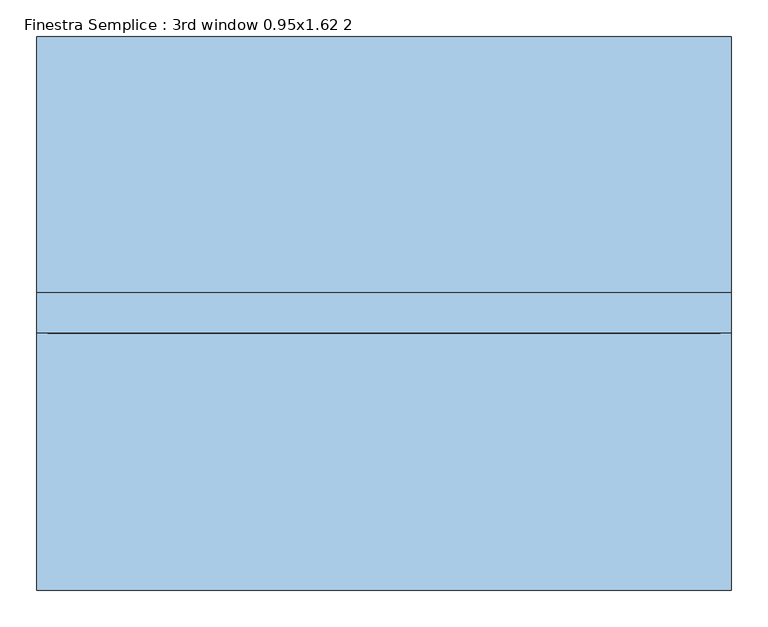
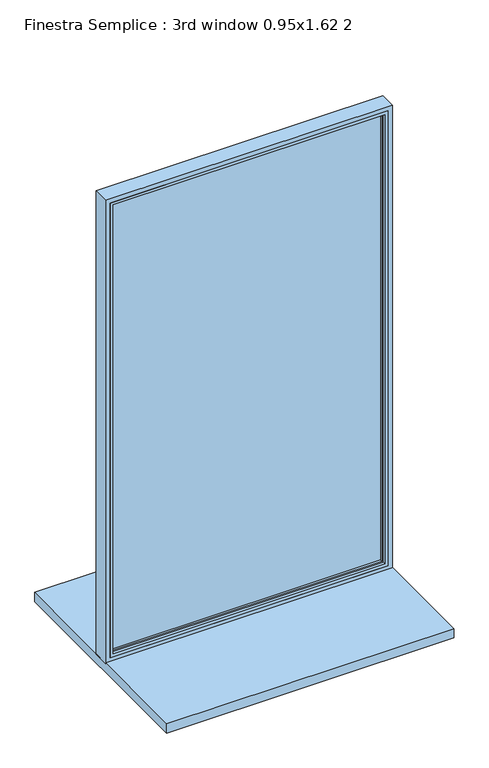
"""IFC4 building model written with IfcOpenShell, lengths in millimetres: window geometry, Finestra Semplice : 3rd window 0.95x1.62 2."""

from ifc_helpers import new_model, si_unit, frame, origin, place, context, project, spatial, polyline, ellipse_curve, outline, extrude, faceted_brep, source, transform, mapped, element, save
from ifc_brep_helpers import plane_surface, cylinder_surface, advanced_brep


def finestra_semplice_3rd_window_0_95x1_62_2_eac4eb58(model_context):
    return source(origin(), model_context, "Body", "SolidModel", [
        extrude(outline(polyline([(445.0, -3.0), (-445.0, -3.0), (-445.0, 9.8627388), (445.0, 9.8627388), (445.0, -3.0)])), frame((0.0, 0.0, 830.0), z_axis=(0.0, 0.0, 1.0), x_axis=(1.0, 0.0, 0.0)), (0.0, 0.0, 1.0), 1560.0),
        faceted_brep([(-460.0, -20.0, 2405.0), (-460.0, 20.0, 2405.0), (-460.0, 20.0, 815.0), (-460.0, -20.0, 815.0), (460.0, 20.0, 2405.0), (460.0, 20.0, 815.0), (-445.0, 20.0, 2390.0), (-445.0, 20.0, 830.0), (445.0, 20.0, 830.0), (445.0, 20.0, 2390.0), (460.0, -20.0, 815.0), (460.0, -20.0, 2405.0), (450.0, -20.0, 2395.0), (450.0, -20.0, 825.0), (-450.0, -20.0, 825.0), (-450.0, -20.0, 2395.0), (-450.0, -10.0, 2395.0), (-450.0, -10.0, 825.0), (450.0, -10.0, 825.0), (450.0, -10.0, 2395.0), (445.0, -10.0, 2390.0), (445.0, -10.0, 830.0), (-445.0, -10.0, 830.0), (-445.0, -10.0, 2390.0)], [[[0, 1, 2, 3]], [[4, 5, 2, 1], [6, 7, 8, 9]], [[3, 2, 5, 10]], [[0, 3, 10, 11], [12, 13, 14, 15]], [[16, 15, 14, 17]], [[17, 14, 13, 18]], [[16, 17, 18, 19], [20, 21, 22, 23]], [[6, 23, 22, 7]], [[7, 22, 21, 8]], [[10, 5, 4, 11]], [[18, 13, 12, 19]], [[8, 21, 20, 9]], [[11, 4, 1, 0]], [[19, 12, 15, 16]], [[9, 20, 23, 6]]]),
        advanced_brep(
        [(-475.0, 35.0, 2420.0), (-475.0, 35.0, 800.0), (-475.0, -20.0, 800.0), (-475.0, -20.0, 2420.0), (475.0, 35.0, 2420.0), (475.0, 35.0, 800.0), (-455.0, 35.0, 820.0), (455.0, 35.0, 820.0), (455.0, 35.0, 2400.0), (-455.0, 35.0, 2400.0), (475.0, -20.0, 800.0), (475.0, -20.0, 2420.0), (-460.0, -20.0, 2405.0), (460.0, -20.0, 2405.0), (460.0, -20.0, 815.0), (-460.0, -20.0, 815.0), (-460.0, 20.0, 2405.0), (-460.0, 20.0, 815.0), (460.0, 20.0, 815.0), (460.0, 20.0, 2405.0), (-450.0, 20.0, 2395.0), (450.0, 20.0, 2395.0), (450.0, 20.0, 825.0), (-450.0, 20.0, 825.0), (-450.0, 30.0, 2395.0), (-450.0, 30.0, 825.0), (450.0, 30.0, 825.0), (450.0, 30.0, 2395.0)],
        [
            (0, 1),
            (1, 2),
            (2, 3),
            (3, 0),
            (0, 4),
            (4, 5),
            (5, 1),
            (6, 7),
            (7, 8),
            (8, 9),
            (9, 6),
            (5, 10),
            (10, 2),
            (10, 11),
            (11, 3),
            (12, 13),
            (13, 14),
            (14, 15),
            (15, 12),
            (16, 12),
            (15, 17),
            (17, 16),
            (14, 18),
            (18, 17),
            (18, 19),
            (19, 16),
            (20, 21),
            (21, 22),
            (22, 23),
            (23, 20),
            (24, 20),
            (23, 25),
            (25, 24),
            (22, 26),
            (26, 25),
            (9, 24, ellipse_curve(frame((-455.0, 30.0, 2400.0), z_axis=(-0.7071067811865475, 0.0, -0.7071067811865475), x_axis=(-0.7071067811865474, 0.0, 0.7071067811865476)), 7.0710678, 5.0)),
            (25, 6, ellipse_curve(frame((-455.0, 30.0, 820.0), z_axis=(-0.7071067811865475, 0.0, 0.7071067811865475), x_axis=(0.7071067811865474, 0.0, 0.7071067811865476)), 7.0710678, 5.0)),
            (26, 7, ellipse_curve(frame((455.0, 30.0, 820.0), z_axis=(-0.7071067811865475, 0.0, -0.7071067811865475), x_axis=(-0.7071067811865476, 0.0, 0.7071067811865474)), 7.0710678, 5.0)),
            (4, 11),
            (13, 19),
            (21, 27),
            (27, 26),
            (27, 8, ellipse_curve(frame((455.0, 30.0, 2400.0), z_axis=(0.7071067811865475, 0.0, -0.7071067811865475), x_axis=(-0.7071067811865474, 0.0, -0.7071067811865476)), 7.0710678, 5.0)),
            (24, 27),
        ],
        [
            plane_surface(frame((-475.0, 0.0, 2420.0), z_axis=(-1.0, 0.0, 0.0), x_axis=(0.0, 0.0, -1.0))),
            plane_surface(frame((455.0, 35.0, 2400.0), z_axis=(0.0, 1.0, 0.0), x_axis=(-1.0, 0.0, 0.0))),
            plane_surface(frame((-475.0, 0.0, 800.0), z_axis=(0.0, 0.0, -1.0), x_axis=(1.0, 0.0, 0.0))),
            plane_surface(frame((475.0, -20.0, 2420.0), z_axis=(0.0, -1.0, 0.0), x_axis=(-1.0, 0.0, 0.0))),
            plane_surface(frame((-460.0, -20.0, 2405.0), z_axis=(1.0, 0.0, 0.0), x_axis=(0.0, 0.0, -1.0))),
            plane_surface(frame((-460.0, -20.0, 815.0), z_axis=(0.0, 0.0, 1.0), x_axis=(1.0, 0.0, 0.0))),
            plane_surface(frame((460.0, 20.0, 2405.0), z_axis=(0.0, -1.0, 0.0), x_axis=(-1.0, 0.0, 0.0))),
            plane_surface(frame((-450.0, 20.0, 2395.0), z_axis=(1.0, 0.0, 0.0), x_axis=(0.0, 0.0, -1.0))),
            plane_surface(frame((-450.0, 20.0, 825.0), z_axis=(0.0, 0.0, 1.0), x_axis=(1.0, 0.0, 0.0))),
            cylinder_surface(frame((-455.0, 30.0, 2420.0), z_axis=(0.0, 0.0, 1.0), x_axis=(1.0, 0.0, 0.0)), 5.0),
            cylinder_surface(frame((-475.0, 30.0, 820.0), z_axis=(-1.0, 0.0, 0.0), x_axis=(0.0, 0.0, 1.0)), 5.0),
            plane_surface(frame((475.0, 0.0, 800.0), z_axis=(1.0, 0.0, 0.0), x_axis=(0.0, 0.0, 1.0))),
            plane_surface(frame((460.0, -20.0, 815.0), z_axis=(-1.0, 0.0, 0.0), x_axis=(0.0, 0.0, 1.0))),
            plane_surface(frame((450.0, 20.0, 825.0), z_axis=(-1.0, 0.0, 0.0), x_axis=(0.0, 0.0, 1.0))),
            cylinder_surface(frame((455.0, 30.0, 800.0), z_axis=(0.0, 0.0, -1.0), x_axis=(-1.0, 0.0, 0.0)), 5.0),
            plane_surface(frame((475.0, 0.0, 2420.0), z_axis=(0.0, 0.0, 1.0), x_axis=(-1.0, 0.0, 0.0))),
            plane_surface(frame((460.0, -20.0, 2405.0), z_axis=(0.0, 0.0, -1.0), x_axis=(-1.0, 0.0, 0.0))),
            plane_surface(frame((450.0, 20.0, 2395.0), z_axis=(0.0, 0.0, -1.0), x_axis=(-1.0, 0.0, 0.0))),
            cylinder_surface(frame((475.0, 30.0, 2400.0), z_axis=(1.0, 0.0, 0.0), x_axis=(0.0, 0.0, -1.0)), 5.0),
        ],
        [
            (0, [[1, 2, 3, 4]]),
            (1, [[5, 6, 7, -1], [8, 9, 10, 11]]),
            (2, [[-2, -7, 12, 13]]),
            (3, [[-13, 14, 15, -3], [16, 17, 18, 19]]),
            (4, [[20, -19, 21, 22]]),
            (5, [[-21, -18, 23, 24]]),
            (6, [[-24, 25, 26, -22], [27, 28, 29, 30]]),
            (7, [[31, -30, 32, 33]]),
            (8, [[-32, -29, 34, 35]]),
            (9, [[36, -33, 37, -11]]),
            (10, [[-37, -35, 38, -8]]),
            (11, [[-12, -6, 39, -14]]),
            (12, [[-23, -17, 40, -25]]),
            (13, [[-34, -28, 41, 42]]),
            (14, [[-38, -42, 43, -9]]),
            (15, [[-39, -5, -4, -15]]),
            (16, [[-40, -16, -20, -26]]),
            (17, [[-41, -27, -31, 44]]),
            (18, [[-43, -44, -36, -10]]),
        ],
    ),
        extrude(outline(polyline([(475.0, -371.4372612), (-475.0, -371.4372612), (-475.0, 385.1627389), (475.0, 385.1627389), (475.0, -371.4372612)])), frame((0.0, 0.0, 770.0), z_axis=(0.0, 0.0, 1.0), x_axis=(1.0, 0.0, 0.0)), (0.0, 0.0, 1.0), 33.0),
    ])


if __name__ == "__main__":
    model = new_model("IFC4")
    model_context = context("Model", 3, world=origin())
    ifc_project = project(units=[si_unit("LENGTHUNIT", "METRE", prefix="MILLI")], contexts=[model_context])
    site = spatial("IfcSite", under=ifc_project)
    building = spatial("IfcBuilding", under=site)
    placement = place(None, origin())
    finestra_semplice_3rd_window_0_95x1_62_2_shape = finestra_semplice_3rd_window_0_95x1_62_2_eac4eb58(model_context)
    element("IfcWindow", 1, ObjectType="Finestra Semplice : 3rd window 0.95x1.62 2", at=placement, inside=building, context=model_context, shape_type="MappedRepresentation", body=[
        mapped(finestra_semplice_3rd_window_0_95x1_62_2_shape, transform((0.0, 0.0, 0.0), x_axis=(1.0, 0.0, 0.0), y_axis=(0.0, 1.0, 0.0), z_axis=(0.0, 0.0, 1.0))),
    ])
    save(model, "model.ifc")
